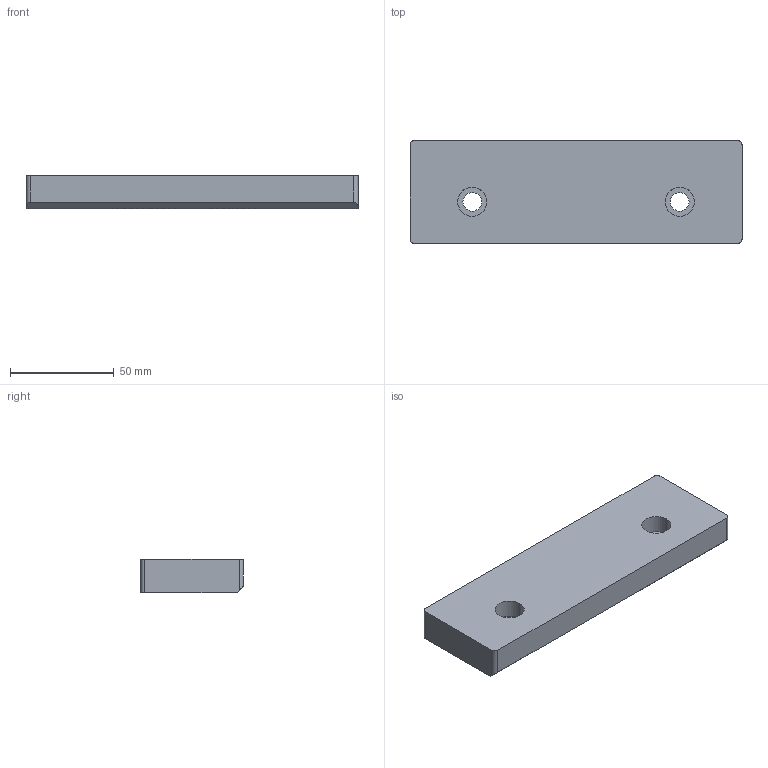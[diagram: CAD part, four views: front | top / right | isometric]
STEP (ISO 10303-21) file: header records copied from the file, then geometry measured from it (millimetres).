
FILE_DESCRIPTION(('STEP AP214'),'1');
FILE_NAME('cctmp_D75B8913-51C8-413D-99D2-6184757FA1D2_2021_03_02_09_08_08_0824..stp','2021-03-02T08:08:08',('Meusburger Georg GmbH & Co KG'),('CADClick - www.CADClick.com'),'Spatial InterOp 3D',' ','unknown authorization');
FILE_SCHEMA(('AUTOMOTIVE_DESIGN { 1 0 10303 214 1 1 1 1 }'));
Length unit declared in the file: millimetre
Products named in the file (2): HWS 5602_160; HWS 5602_160_1
Assembly tree (1 placements, depth 2):
  HWS 5602_160
    HWS 5602_160_1
Bounding box: 160 x 49.5 x 16 mm (x, y, z)
Volume: 122287.9 mm3; surface area: 23130.1 mm2
Topology: 1 solids, 1 shells, 21 faces, 51 edges, 34 vertices
Faces by surface type: cylinder 12, plane 9
Entity records: 855 total; most frequent: DIRECTION 117, CARTESIAN_POINT 114, ORIENTED_EDGE 102, EDGE_CURVE 51, AXIS2_PLACEMENT_3D 45, VERTEX_POINT 34, EDGE_LOOP 27, LINE 27
